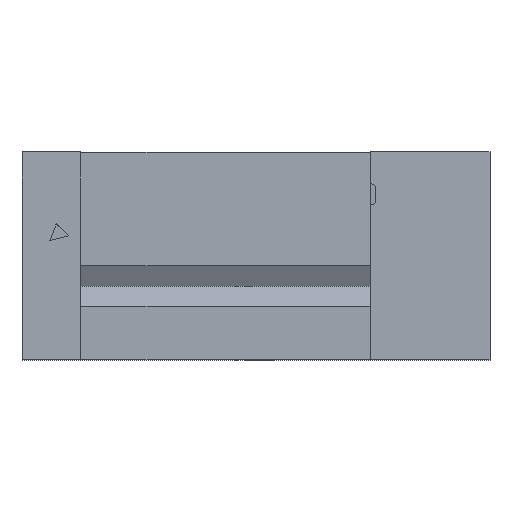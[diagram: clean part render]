
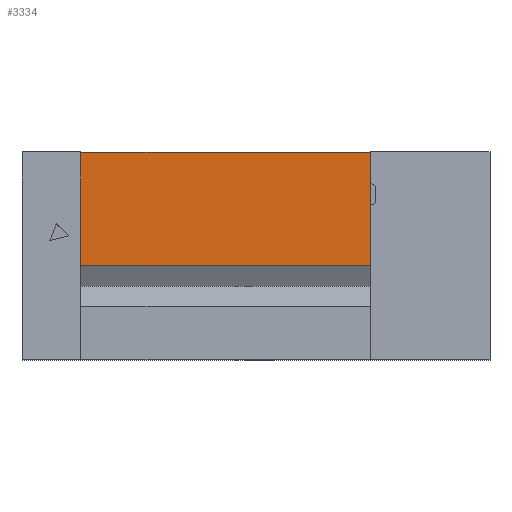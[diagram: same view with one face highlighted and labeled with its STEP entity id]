
A CAD part, top view. The second image highlights one B-rep face of the part: STEP entity #3334.
In plain terms, the highlighted planar face has unit normal (0, 0, 1).
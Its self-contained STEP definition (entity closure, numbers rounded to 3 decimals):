
#100 = PLANE('',#101);
#101 = AXIS2_PLACEMENT_3D('',#102,#103,#104);
#102 = CARTESIAN_POINT('',(0.,19.561,0.));
#103 = DIRECTION('',(-0.,1.,0.));
#104 = DIRECTION('',(0.,0.,1.));
#270 = PLANE('',#271);
#271 = AXIS2_PLACEMENT_3D('',#272,#273,#274);
#272 = CARTESIAN_POINT('',(0.,8.834,10.161));
#273 = DIRECTION('',(0.,1.,0.005));
#274 = DIRECTION('',(0.,0.005,-1.));
#488 = PLANE('',#489);
#489 = AXIS2_PLACEMENT_3D('',#490,#491,#492);
#490 = CARTESIAN_POINT('',(5.535,0.,18.544));
#491 = DIRECTION('',(-1.,0.,-0.));
#492 = DIRECTION('',(0.,0.,-1.));
#544 = PLANE('',#545);
#545 = AXIS2_PLACEMENT_3D('',#546,#547,#548);
#546 = CARTESIAN_POINT('',(32.806,0.,9.021));
#547 = DIRECTION('',(1.,0.,-0.));
#548 = DIRECTION('',(0.,0.,1.));
#1096 = VERTEX_POINT('',#1097);
#1097 = CARTESIAN_POINT('',(5.535,19.561,9.021)
  );
#1116 = EDGE_CURVE('',#1117,#1096,#1119,.T.);
#1117 = VERTEX_POINT('',#1118);
#1118 = CARTESIAN_POINT('',(32.806,19.561,
    9.021));
#1119 = SURFACE_CURVE('',#1120,(#1124,#1130),.PCURVE_S1.);
#1120 = LINE('',#1121,#1122);
#1121 = CARTESIAN_POINT('',(2.768,19.561,9.021)
  );
#1122 = VECTOR('',#1123,1.);
#1123 = DIRECTION('',(-1.,0.,-0.));
#1124 = PCURVE('',#100,#1125);
#1125 = DEFINITIONAL_REPRESENTATION('',(#1126),#1129);
#1126 = B_SPLINE_CURVE_WITH_KNOTS('',1,(#1127,#1128),.UNSPECIFIED.,.F.,
  .F.,(2,2),(-30.038,-2.768),.PIECEWISE_BEZIER_KNOTS.);
#1127 = CARTESIAN_POINT('',(9.021,32.806));
#1128 = CARTESIAN_POINT('',(9.021,5.535));
#1129 = ( GEOMETRIC_REPRESENTATION_CONTEXT(2) 
PARAMETRIC_REPRESENTATION_CONTEXT() REPRESENTATION_CONTEXT('2D SPACE',''
  ) );
#1130 = PCURVE('',#1131,#1136);
#1131 = PLANE('',#1132);
#1132 = AXIS2_PLACEMENT_3D('',#1133,#1134,#1135);
#1133 = CARTESIAN_POINT('',(5.535,0.,9.021));
#1134 = DIRECTION('',(0.,0.,-1.));
#1135 = DIRECTION('',(1.,0.,0.));
#1136 = DEFINITIONAL_REPRESENTATION('',(#1137),#1140);
#1137 = B_SPLINE_CURVE_WITH_KNOTS('',1,(#1138,#1139),.UNSPECIFIED.,.F.,
  .F.,(2,2),(-30.038,-2.768),.PIECEWISE_BEZIER_KNOTS.);
#1138 = CARTESIAN_POINT('',(27.27,-19.561));
#1139 = CARTESIAN_POINT('',(0.,-19.561));
#1140 = ( GEOMETRIC_REPRESENTATION_CONTEXT(2) 
PARAMETRIC_REPRESENTATION_CONTEXT() REPRESENTATION_CONTEXT('2D SPACE',''
  ) );
#1798 = VERTEX_POINT('',#1799);
#1799 = CARTESIAN_POINT('',(5.535,8.84,9.021));
#1818 = EDGE_CURVE('',#1798,#1819,#1821,.T.);
#1819 = VERTEX_POINT('',#1820);
#1820 = CARTESIAN_POINT('',(32.806,8.84,
    9.021));
#1821 = SURFACE_CURVE('',#1822,(#1826,#1832),.PCURVE_S1.);
#1822 = LINE('',#1823,#1824);
#1823 = CARTESIAN_POINT('',(2.768,8.84,9.021));
#1824 = VECTOR('',#1825,1.);
#1825 = DIRECTION('',(1.,-0.,0.));
#1826 = PCURVE('',#270,#1827);
#1827 = DEFINITIONAL_REPRESENTATION('',(#1828),#1831);
#1828 = B_SPLINE_CURVE_WITH_KNOTS('',1,(#1829,#1830),.UNSPECIFIED.,.F.,
  .F.,(2,2),(2.768,30.038),.PIECEWISE_BEZIER_KNOTS.);
#1829 = CARTESIAN_POINT('',(1.14,-5.535));
#1830 = CARTESIAN_POINT('',(1.14,-32.806));
#1831 = ( GEOMETRIC_REPRESENTATION_CONTEXT(2) 
PARAMETRIC_REPRESENTATION_CONTEXT() REPRESENTATION_CONTEXT('2D SPACE',''
  ) );
#1832 = PCURVE('',#1131,#1833);
#1833 = DEFINITIONAL_REPRESENTATION('',(#1834),#1837);
#1834 = B_SPLINE_CURVE_WITH_KNOTS('',1,(#1835,#1836),.UNSPECIFIED.,.F.,
  .F.,(2,2),(2.768,30.038),.PIECEWISE_BEZIER_KNOTS.);
#1835 = CARTESIAN_POINT('',(0.,-8.84));
#1836 = CARTESIAN_POINT('',(27.27,-8.84));
#1837 = ( GEOMETRIC_REPRESENTATION_CONTEXT(2) 
PARAMETRIC_REPRESENTATION_CONTEXT() REPRESENTATION_CONTEXT('2D SPACE',''
  ) );
#2636 = EDGE_CURVE('',#1819,#1117,#2637,.T.);
#2637 = SURFACE_CURVE('',#2638,(#2642,#2649),.PCURVE_S1.);
#2638 = LINE('',#2639,#2640);
#2639 = CARTESIAN_POINT('',(32.806,0.,9.021));
#2640 = VECTOR('',#2641,1.);
#2641 = DIRECTION('',(-0.,1.,0.));
#2642 = PCURVE('',#544,#2643);
#2643 = DEFINITIONAL_REPRESENTATION('',(#2644),#2648);
#2644 = LINE('',#2645,#2646);
#2645 = CARTESIAN_POINT('',(0.,0.));
#2646 = VECTOR('',#2647,1.);
#2647 = DIRECTION('',(0.,-1.));
#2648 = ( GEOMETRIC_REPRESENTATION_CONTEXT(2) 
PARAMETRIC_REPRESENTATION_CONTEXT() REPRESENTATION_CONTEXT('2D SPACE',''
  ) );
#2649 = PCURVE('',#1131,#2650);
#2650 = DEFINITIONAL_REPRESENTATION('',(#2651),#2655);
#2651 = LINE('',#2652,#2653);
#2652 = CARTESIAN_POINT('',(27.27,0.));
#2653 = VECTOR('',#2654,1.);
#2654 = DIRECTION('',(0.,-1.));
#2655 = ( GEOMETRIC_REPRESENTATION_CONTEXT(2) 
PARAMETRIC_REPRESENTATION_CONTEXT() REPRESENTATION_CONTEXT('2D SPACE',''
  ) );
#2765 = EDGE_CURVE('',#1798,#1096,#2766,.T.);
#2766 = SURFACE_CURVE('',#2767,(#2771,#2778),.PCURVE_S1.);
#2767 = LINE('',#2768,#2769);
#2768 = CARTESIAN_POINT('',(5.535,0.,9.021));
#2769 = VECTOR('',#2770,1.);
#2770 = DIRECTION('',(-0.,1.,0.));
#2771 = PCURVE('',#488,#2772);
#2772 = DEFINITIONAL_REPRESENTATION('',(#2773),#2777);
#2773 = LINE('',#2774,#2775);
#2774 = CARTESIAN_POINT('',(9.523,0.));
#2775 = VECTOR('',#2776,1.);
#2776 = DIRECTION('',(0.,-1.));
#2777 = ( GEOMETRIC_REPRESENTATION_CONTEXT(2) 
PARAMETRIC_REPRESENTATION_CONTEXT() REPRESENTATION_CONTEXT('2D SPACE',''
  ) );
#2778 = PCURVE('',#1131,#2779);
#2779 = DEFINITIONAL_REPRESENTATION('',(#2780),#2784);
#2780 = LINE('',#2781,#2782);
#2781 = CARTESIAN_POINT('',(0.,0.));
#2782 = VECTOR('',#2783,1.);
#2783 = DIRECTION('',(0.,-1.));
#2784 = ( GEOMETRIC_REPRESENTATION_CONTEXT(2) 
PARAMETRIC_REPRESENTATION_CONTEXT() REPRESENTATION_CONTEXT('2D SPACE',''
  ) );
#3334 = ADVANCED_FACE('f033',(#3335),#1131,.F.);
#3335 = FACE_BOUND('',#3336,.F.);
#3336 = EDGE_LOOP('',(#3337,#3338,#3339,#3340));
#3337 = ORIENTED_EDGE('',*,*,#1818,.F.);
#3338 = ORIENTED_EDGE('',*,*,#2765,.T.);
#3339 = ORIENTED_EDGE('',*,*,#1116,.F.);
#3340 = ORIENTED_EDGE('',*,*,#2636,.F.);
